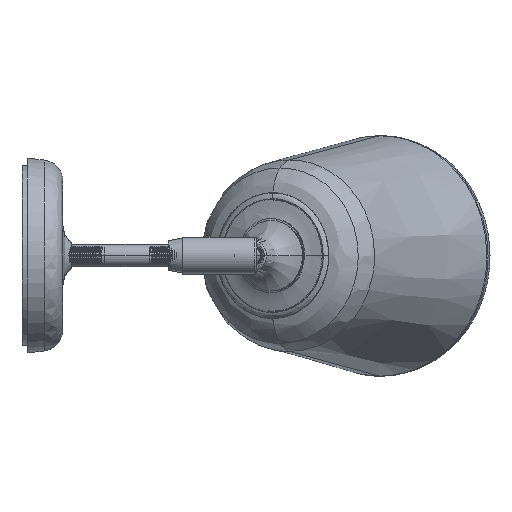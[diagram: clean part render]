
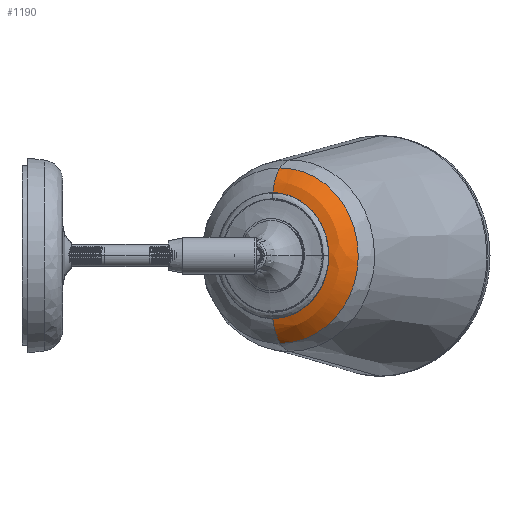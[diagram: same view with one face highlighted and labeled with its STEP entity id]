
A CAD part, top view. The second image highlights one B-rep face of the part: STEP entity #1190.
In plain terms, the highlighted free-form (B-spline) face has degree [3, 2] with [4, 9] control points.
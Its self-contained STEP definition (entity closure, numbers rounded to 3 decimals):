
#1190=ADVANCED_FACE('',(#1911),#12711,.T.);
#1911=FACE_OUTER_BOUND('',#2683,.T.);
#2683=EDGE_LOOP('',(#6965,#6966,#6967,#6968,#6969,#6970));
#6965=ORIENTED_EDGE('',*,*,#9744,.F.);
#6966=ORIENTED_EDGE('',*,*,#9741,.F.);
#6967=ORIENTED_EDGE('',*,*,#9757,.F.);
#6968=ORIENTED_EDGE('',*,*,#9740,.F.);
#6969=ORIENTED_EDGE('',*,*,#9739,.T.);
#6970=ORIENTED_EDGE('',*,*,#9737,.T.);
#9737=EDGE_CURVE('',#12125,#12122,#10512,.T.);
#9739=EDGE_CURVE('',#12124,#12125,#10513,.T.);
#9740=EDGE_CURVE('',#12124,#12126,#14427,.T.);
#9741=EDGE_CURVE('',#12127,#12128,#10514,.T.);
#9744=EDGE_CURVE('',#12128,#12122,#14428,.T.);
#9757=EDGE_CURVE('',#12126,#12127,#10525,.T.);
#10512=(
BOUNDED_CURVE()
B_SPLINE_CURVE(2,(#62949,#62950,#62951),.UNSPECIFIED.,.F.,.F.)
B_SPLINE_CURVE_WITH_KNOTS((3,3),(-74.487,0.),.UNSPECIFIED.)
CURVE()
GEOMETRIC_REPRESENTATION_ITEM()
RATIONAL_B_SPLINE_CURVE((1.,0.707,1.))
REPRESENTATION_ITEM('')
);
#10513=(
BOUNDED_CURVE()
B_SPLINE_CURVE(2,(#62956,#62957,#62958),.UNSPECIFIED.,.F.,.F.)
B_SPLINE_CURVE_WITH_KNOTS((3,3),(-74.483,0.),.UNSPECIFIED.)
CURVE()
GEOMETRIC_REPRESENTATION_ITEM()
RATIONAL_B_SPLINE_CURVE((1.,0.707,1.))
REPRESENTATION_ITEM('')
);
#10514=(
BOUNDED_CURVE()
B_SPLINE_CURVE(2,(#62965,#62966,#62967,#62968,#62969),.UNSPECIFIED.,.F.,
 .F.)
B_SPLINE_CURVE_WITH_KNOTS((3,2,3),(-48.318,-24.159,
0.),.UNSPECIFIED.)
CURVE()
GEOMETRIC_REPRESENTATION_ITEM()
RATIONAL_B_SPLINE_CURVE((1.,0.924,1.,0.924,1.))
REPRESENTATION_ITEM('')
);
#10525=(
BOUNDED_CURVE()
B_SPLINE_CURVE(2,(#63028,#63029,#63030),.UNSPECIFIED.,.F.,.F.)
B_SPLINE_CURVE_WITH_KNOTS((3,3),(-48.312,0.),.UNSPECIFIED.)
CURVE()
GEOMETRIC_REPRESENTATION_ITEM()
RATIONAL_B_SPLINE_CURVE((1.,0.707,1.))
REPRESENTATION_ITEM('')
);
#12122=VERTEX_POINT('',#62724);
#12124=VERTEX_POINT('',#62726);
#12125=VERTEX_POINT('',#62727);
#12126=VERTEX_POINT('',#62728);
#12127=VERTEX_POINT('',#62729);
#12128=VERTEX_POINT('',#62730);
#12711=(
BOUNDED_SURFACE()
B_SPLINE_SURFACE(3,2,((#62136,#62137,#62138,#62139,#62140,#62141,#62142,
#62143,#62144),(#62145,#62146,#62147,#62148,#62149,#62150,#62151,#62152,
#62153),(#62154,#62155,#62156,#62157,#62158,#62159,#62160,#62161,#62162),
(#62163,#62164,#62165,#62166,#62167,#62168,#62169,#62170,#62171)),
 .UNSPECIFIED.,.F.,.F.,.F.)
B_SPLINE_SURFACE_WITH_KNOTS((4,4),(3,2,2,2,3),(0.,19.97),(0.,
74.686,149.372,224.058,298.744),
 .UNSPECIFIED.)
GEOMETRIC_REPRESENTATION_ITEM()
RATIONAL_B_SPLINE_SURFACE(((0.086,0.061,0.086,
0.061,0.086,0.061,0.086,
0.061,0.086),(0.077,0.054,
0.077,0.054,0.077,0.054,
0.077,0.054,0.077),(0.073,
0.052,0.073,0.052,0.073,
0.052,0.073,0.052,0.073),
(0.075,0.053,0.075,0.053,
0.075,0.053,0.075,0.053,
0.075)))
REPRESENTATION_ITEM('')
SURFACE()
);
#14427=B_SPLINE_CURVE_WITH_KNOTS('',3,(#62959,#62960,#62961,#62962,#62963,
#62964),.UNSPECIFIED.,.F.,.F.,(4,2,4),(0.,0.5,1.),
 .UNSPECIFIED.);
#14428=B_SPLINE_CURVE_WITH_KNOTS('',3,(#62978,#62979,#62980,#62981,#62982,
#62983),.UNSPECIFIED.,.F.,.F.,(4,2,4),(0.,0.5,1.),.UNSPECIFIED.);
#62136=CARTESIAN_POINT('',(2408.79,-71.363,1659.155));
#62137=CARTESIAN_POINT('',(2408.794,-101.946,1659.157));
#62138=CARTESIAN_POINT('',(2436.043,-101.941,1673.041));
#62139=CARTESIAN_POINT('',(2463.291,-101.937,1686.925));
#62140=CARTESIAN_POINT('',(2463.288,-71.355,1686.923));
#62141=CARTESIAN_POINT('',(2463.284,-40.772,1686.921));
#62142=CARTESIAN_POINT('',(2436.035,-40.777,1673.037));
#62143=CARTESIAN_POINT('',(2408.786,-40.781,1659.153));
#62144=CARTESIAN_POINT('',(2408.79,-71.363,1659.155));
#62145=CARTESIAN_POINT('',(2402.929,-71.364,1655.849));
#62146=CARTESIAN_POINT('',(2402.934,-108.669,1655.851));
#62147=CARTESIAN_POINT('',(2436.173,-108.664,1672.787));
#62148=CARTESIAN_POINT('',(2469.412,-108.658,1689.723));
#62149=CARTESIAN_POINT('',(2469.407,-71.354,1689.721));
#62150=CARTESIAN_POINT('',(2469.402,-34.049,1689.718));
#62151=CARTESIAN_POINT('',(2436.163,-34.054,1672.782));
#62152=CARTESIAN_POINT('',(2402.924,-34.06,1655.846));
#62153=CARTESIAN_POINT('',(2402.929,-71.364,1655.849));
#62154=CARTESIAN_POINT('',(2398.896,-71.365,1650.25));
#62155=CARTESIAN_POINT('',(2398.901,-114.806,1650.253));
#62156=CARTESIAN_POINT('',(2437.607,-114.799,1669.975));
#62157=CARTESIAN_POINT('',(2476.313,-114.793,1689.696));
#62158=CARTESIAN_POINT('',(2476.307,-71.353,1689.693));
#62159=CARTESIAN_POINT('',(2476.301,-27.912,1689.691));
#62160=CARTESIAN_POINT('',(2437.596,-27.918,1669.969));
#62161=CARTESIAN_POINT('',(2398.89,-27.925,1650.247));
#62162=CARTESIAN_POINT('',(2398.896,-71.365,1650.25));
#62163=CARTESIAN_POINT('',(2397.844,-71.366,1643.269));
#62164=CARTESIAN_POINT('',(2397.851,-118.912,1643.272));
#62165=CARTESIAN_POINT('',(2440.215,-118.906,1664.858));
#62166=CARTESIAN_POINT('',(2482.579,-118.899,1686.443));
#62167=CARTESIAN_POINT('',(2482.573,-71.352,1686.44));
#62168=CARTESIAN_POINT('',(2482.567,-23.806,1686.437));
#62169=CARTESIAN_POINT('',(2440.203,-23.812,1664.851));
#62170=CARTESIAN_POINT('',(2397.838,-23.819,1643.266));
#62171=CARTESIAN_POINT('',(2397.844,-71.366,1643.269));
#62724=CARTESIAN_POINT('',(2440.128,-23.941,1665.013));
#62726=CARTESIAN_POINT('',(2440.149,-118.787,1665.008));
#62727=CARTESIAN_POINT('',(2482.386,-71.359,1686.536));
#62728=CARTESIAN_POINT('',(2436.046,-102.118,1673.034));
#62729=CARTESIAN_POINT('',(2463.449,-71.359,1686.996));
#62730=CARTESIAN_POINT('',(2436.041,-40.6,1673.031));
#62949=CARTESIAN_POINT('',(2482.386,-71.359,1686.536));
#62950=CARTESIAN_POINT('',(2482.38,-23.939,1686.539));
#62951=CARTESIAN_POINT('',(2440.128,-23.941,1665.013));
#62956=CARTESIAN_POINT('',(2440.149,-118.787,1665.008));
#62957=CARTESIAN_POINT('',(2482.392,-118.77,1686.533));
#62958=CARTESIAN_POINT('',(2482.386,-71.359,1686.536));
#62959=CARTESIAN_POINT('',(2440.149,-118.787,1665.008));
#62960=CARTESIAN_POINT('',(2438.909,-116.8,1667.436));
#62961=CARTESIAN_POINT('',(2437.869,-114.123,1669.473));
#62962=CARTESIAN_POINT('',(2436.472,-108.243,1672.204));
#62963=CARTESIAN_POINT('',(2436.115,-105.071,1672.901));
#62964=CARTESIAN_POINT('',(2436.046,-102.118,1673.034));
#62965=CARTESIAN_POINT('',(2463.449,-71.359,1686.996));
#62966=CARTESIAN_POINT('',(2463.449,-58.618,1686.996));
#62967=CARTESIAN_POINT('',(2455.422,-49.608,1682.906));
#62968=CARTESIAN_POINT('',(2447.394,-40.599,1678.815));
#62969=CARTESIAN_POINT('',(2436.041,-40.6,1673.031));
#62978=CARTESIAN_POINT('',(2436.041,-40.6,1673.031));
#62979=CARTESIAN_POINT('',(2436.109,-37.65,1672.898));
#62980=CARTESIAN_POINT('',(2436.464,-34.482,1672.202));
#62981=CARTESIAN_POINT('',(2437.854,-28.605,1669.474));
#62982=CARTESIAN_POINT('',(2438.891,-25.929,1667.439));
#62983=CARTESIAN_POINT('',(2440.128,-23.941,1665.013));
#63028=CARTESIAN_POINT('',(2436.046,-102.118,1673.034));
#63029=CARTESIAN_POINT('',(2463.449,-102.114,1686.996));
#63030=CARTESIAN_POINT('',(2463.449,-71.359,1686.996));
